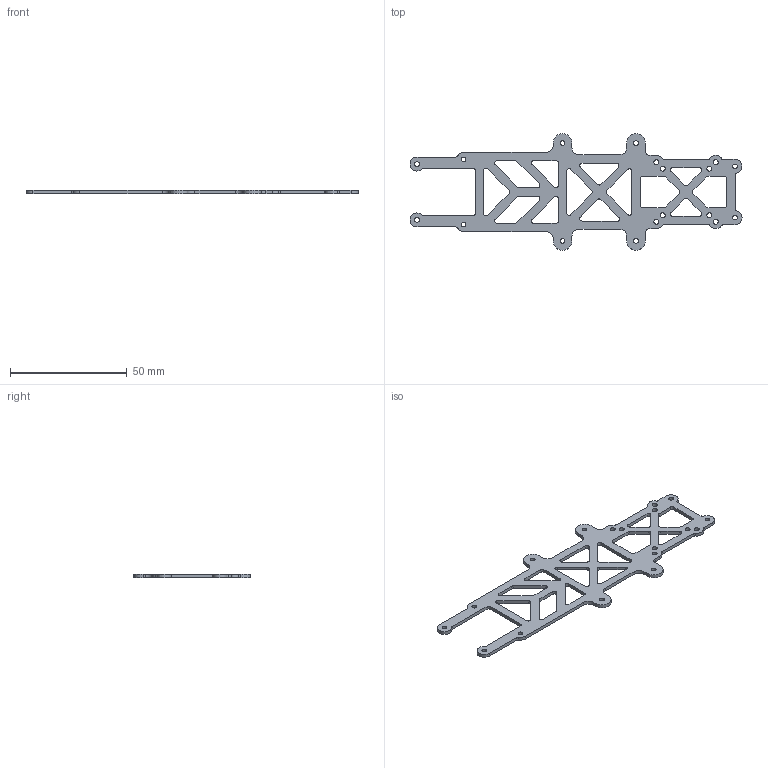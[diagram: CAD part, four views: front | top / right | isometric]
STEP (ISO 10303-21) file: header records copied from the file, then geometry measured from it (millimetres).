
FILE_DESCRIPTION(/* description */ ('','CAx-IF Rec.Pracs.---Representation and Presentation of Product Manufacturing Information (PMI)---4.0---2014-10-13'),/* implementation_level */ '2;1');
FILE_NAME(/* name */ 'GoFlyPro - 4Z - Topplate-V2.step',/* time_stamp */ '2025-03-23T19:48:19+01:00',/* author */ (''),/* organization */ (''),/* preprocessor_version */ 'ST-DEVELOPER v20',/* originating_system */ 'Autodesk Translation Framework v13.20.0.188',/* authorisation */ '');
FILE_SCHEMA (('AP242_MANAGED_MODEL_BASED_3D_ENGINEERING_MIM_LF { 1 0 10303 442 1 1 4 }'));
Length unit declared in the file: millimetre
Products named in the file (1): GoFlyPro - 4Z - Topplate-V2
Bounding box: 142.5 x 50 x 1.5 mm (x, y, z)
Volume: 3899.7 mm3; surface area: 6916.7 mm2
Topology: 1 solids, 1 shells, 170 faces, 504 edges, 336 vertices
Faces by surface type: cylinder 99, plane 71
Full cylindrical faces by diameter (mm): 2 x10, 2.1 x8
Entity records: 5923 total; most frequent: DIRECTION 1044, CARTESIAN_POINT 1011, ORIENTED_EDGE 1008, EDGE_CURVE 504, AXIS2_PLACEMENT_3D 369, VERTEX_POINT 336, LINE 306, VECTOR 306
